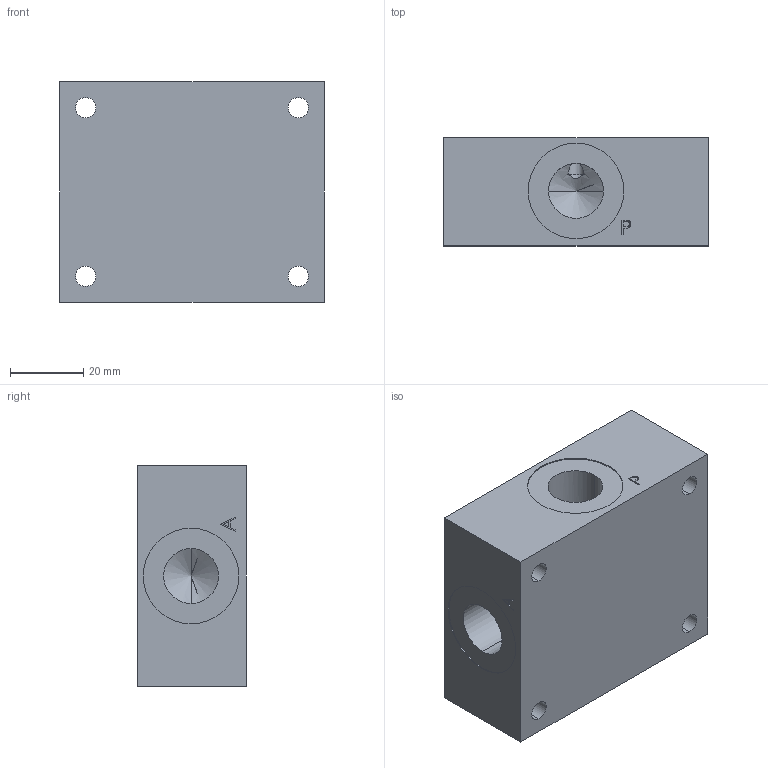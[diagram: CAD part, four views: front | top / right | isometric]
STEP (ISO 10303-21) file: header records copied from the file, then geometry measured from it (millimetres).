
FILE_DESCRIPTION (( 'STEP AP214' ), '1' );
FILE_NAME ('AGSB04.STEP', '2017-03-20T06:02:25', ( '' ), ( '' ), 'SwSTEP 2.0', 'SolidWorks 2016', '' );
FILE_SCHEMA (( 'AUTOMOTIVE_DESIGN' ));
Length unit declared in the file: millimetre
Products named in the file (1): AGSB04
Bounding box: 72 x 29.5 x 60 mm (x, y, z)
Volume: 107031 mm3; surface area: 23718.5 mm2
Topology: 1 solids, 1 shells, 241 faces, 616 edges, 393 vertices
Faces by surface type: plane 109, bspline 57, cylinder 50, cone 25
Entity records: 10685 total; most frequent: CARTESIAN_POINT 5036, ORIENTED_EDGE 1192, DIRECTION 943, EDGE_CURVE 596, VERTEX_POINT 393, VECTOR 367, LINE 367, EDGE_LOOP 289
